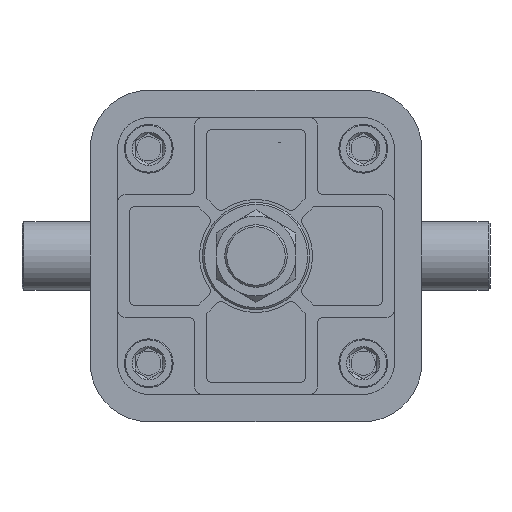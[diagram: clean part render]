
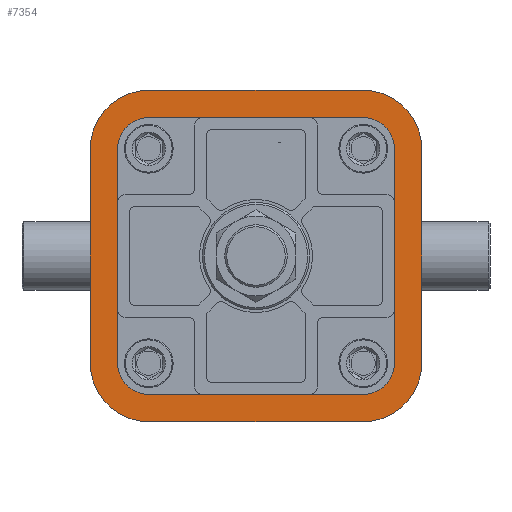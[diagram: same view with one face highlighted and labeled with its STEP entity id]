
A CAD part, front view. The second image highlights one B-rep face of the part: STEP entity #7354.
In plain terms, the highlighted planar face has unit normal (0, -1, 0).
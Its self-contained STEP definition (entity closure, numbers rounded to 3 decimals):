
#455=CIRCLE('',#7910,30.);
#457=CIRCLE('',#7914,30.);
#459=CIRCLE('',#7919,68.);
#460=CIRCLE('',#7921,6.25);
#462=CIRCLE('',#7924,6.25);
#464=CIRCLE('',#7927,6.25);
#466=CIRCLE('',#7930,6.25);
#469=CIRCLE('',#7934,30.);
#471=CIRCLE('',#7938,30.);
#1713=ORIENTED_EDGE('',*,*,#2577,.F.);
#1714=ORIENTED_EDGE('',*,*,#2575,.F.);
#1715=ORIENTED_EDGE('',*,*,#2573,.F.);
#1716=ORIENTED_EDGE('',*,*,#2571,.F.);
#1717=ORIENTED_EDGE('',*,*,#2570,.T.);
#1718=ORIENTED_EDGE('',*,*,#2568,.F.);
#1719=ORIENTED_EDGE('',*,*,#2585,.T.);
#1720=ORIENTED_EDGE('',*,*,#2586,.F.);
#1721=ORIENTED_EDGE('',*,*,#2580,.T.);
#1722=ORIENTED_EDGE('',*,*,#2563,.F.);
#1723=ORIENTED_EDGE('',*,*,#2561,.T.);
#1724=ORIENTED_EDGE('',*,*,#2557,.F.);
#1725=ORIENTED_EDGE('',*,*,#2555,.T.);
#2555=EDGE_CURVE('',#3110,#3109,#455,.F.);
#2557=EDGE_CURVE('',#3110,#3111,#3568,.T.);
#2561=EDGE_CURVE('',#3114,#3111,#457,.F.);
#2563=EDGE_CURVE('',#3114,#3115,#3572,.T.);
#2568=EDGE_CURVE('',#3118,#3109,#3577,.T.);
#2570=EDGE_CURVE('',#3120,#3120,#459,.T.);
#2571=EDGE_CURVE('',#3121,#3121,#460,.F.);
#2573=EDGE_CURVE('',#3123,#3123,#462,.F.);
#2575=EDGE_CURVE('',#3125,#3125,#464,.F.);
#2577=EDGE_CURVE('',#3127,#3127,#466,.F.);
#2580=EDGE_CURVE('',#3130,#3115,#469,.F.);
#2585=EDGE_CURVE('',#3118,#3132,#471,.F.);
#2586=EDGE_CURVE('',#3130,#3132,#3581,.T.);
#3109=VERTEX_POINT('',#10889);
#3110=VERTEX_POINT('',#10891);
#3111=VERTEX_POINT('',#10895);
#3114=VERTEX_POINT('',#10903);
#3115=VERTEX_POINT('',#10907);
#3118=VERTEX_POINT('',#10915);
#3120=VERTEX_POINT('',#10921);
#3121=VERTEX_POINT('',#10924);
#3123=VERTEX_POINT('',#10929);
#3125=VERTEX_POINT('',#10934);
#3127=VERTEX_POINT('',#10939);
#3130=VERTEX_POINT('',#10946);
#3132=VERTEX_POINT('',#10954);
#3568=LINE('',#10894,#3976);
#3572=LINE('',#10906,#3980);
#3577=LINE('',#10916,#3985);
#3581=LINE('',#10957,#3989);
#3976=VECTOR('',#9318,1000.);
#3980=VECTOR('',#9330,1000.);
#3985=VECTOR('',#9337,1000.);
#3989=VECTOR('',#9387,1000.);
#4351=EDGE_LOOP('',(#1713));
#4352=EDGE_LOOP('',(#1714));
#4353=EDGE_LOOP('',(#1715));
#4354=EDGE_LOOP('',(#1716));
#4355=EDGE_LOOP('',(#1717));
#4356=EDGE_LOOP('',(#1718,#1719,#1720,#1721,#1722,#1723,#1724,#1725));
#4775=FACE_BOUND('',#4351,.T.);
#4776=FACE_BOUND('',#4352,.T.);
#4777=FACE_BOUND('',#4353,.T.);
#4778=FACE_BOUND('',#4354,.T.);
#4779=FACE_BOUND('',#4355,.T.);
#4780=FACE_BOUND('',#4356,.T.);
#5004=PLANE('',#7939);
#7354=ADVANCED_FACE('',(#4775,#4776,#4777,#4778,#4779,#4780),#5004,.F.);
#7910=AXIS2_PLACEMENT_3D('',#10890,#9313,#9314);
#7914=AXIS2_PLACEMENT_3D('',#10902,#9325,#9326);
#7919=AXIS2_PLACEMENT_3D('',#10920,#9342,#9343);
#7921=AXIS2_PLACEMENT_3D('',#10923,#9346,#9347);
#7924=AXIS2_PLACEMENT_3D('',#10928,#9352,#9353);
#7927=AXIS2_PLACEMENT_3D('',#10933,#9358,#9359);
#7930=AXIS2_PLACEMENT_3D('',#10938,#9364,#9365);
#7934=AXIS2_PLACEMENT_3D('',#10945,#9372,#9373);
#7938=AXIS2_PLACEMENT_3D('',#10955,#9383,#9384);
#7939=AXIS2_PLACEMENT_3D('',#10956,#9385,#9386);
#9313=DIRECTION('',(0.,1.,0.));
#9314=DIRECTION('',(0.,0.,1.));
#9318=DIRECTION('',(0.,0.,-1.));
#9325=DIRECTION('',(0.,1.,0.));
#9326=DIRECTION('',(0.,0.,1.));
#9330=DIRECTION('',(-1.,0.,0.));
#9337=DIRECTION('',(1.,0.,0.));
#9342=DIRECTION('',(0.,1.,0.));
#9343=DIRECTION('',(0.,0.,1.));
#9346=DIRECTION('',(0.,1.,0.));
#9347=DIRECTION('',(0.,0.,1.));
#9352=DIRECTION('',(0.,1.,0.));
#9353=DIRECTION('',(0.,0.,1.));
#9358=DIRECTION('',(0.,1.,0.));
#9359=DIRECTION('',(0.,0.,1.));
#9364=DIRECTION('',(0.,1.,0.));
#9365=DIRECTION('',(0.,0.,1.));
#9372=DIRECTION('',(0.,1.,0.));
#9373=DIRECTION('',(0.,0.,1.));
#9383=DIRECTION('',(0.,1.,0.));
#9384=DIRECTION('',(0.,0.,1.));
#9385=DIRECTION('',(0.,1.,0.));
#9386=DIRECTION('',(0.,0.,1.));
#9387=DIRECTION('',(0.,0.,1.));
#10889=CARTESIAN_POINT('',(55.,-24.,85.));
#10890=CARTESIAN_POINT('',(55.,-24.,55.));
#10891=CARTESIAN_POINT('',(85.,-24.,55.));
#10894=CARTESIAN_POINT('',(85.,-24.,40.5));
#10895=CARTESIAN_POINT('',(85.,-24.,-55.));
#10902=CARTESIAN_POINT('',(55.,-24.,-55.));
#10903=CARTESIAN_POINT('',(55.,-24.,-85.));
#10906=CARTESIAN_POINT('',(45.,-24.,-85.));
#10907=CARTESIAN_POINT('',(-55.,-24.,-85.));
#10915=CARTESIAN_POINT('',(-55.,-24.,85.));
#10916=CARTESIAN_POINT('',(-45.,-24.,85.));
#10920=CARTESIAN_POINT('',(0.,-24.,0.));
#10921=CARTESIAN_POINT('',(0.,-24.,68.));
#10923=CARTESIAN_POINT('',(55.,-24.,55.));
#10924=CARTESIAN_POINT('',(55.,-24.,61.25));
#10928=CARTESIAN_POINT('',(-55.,-24.,55.));
#10929=CARTESIAN_POINT('',(-55.,-24.,61.25));
#10933=CARTESIAN_POINT('',(-55.,-24.,-55.));
#10934=CARTESIAN_POINT('',(-55.,-24.,-48.75));
#10938=CARTESIAN_POINT('',(55.,-24.,-55.));
#10939=CARTESIAN_POINT('',(55.,-24.,-48.75));
#10945=CARTESIAN_POINT('',(-55.,-24.,-55.));
#10946=CARTESIAN_POINT('',(-85.,-24.,-55.));
#10954=CARTESIAN_POINT('',(-85.,-24.,55.));
#10955=CARTESIAN_POINT('',(-55.,-24.,55.));
#10956=CARTESIAN_POINT('',(0.,-24.,0.));
#10957=CARTESIAN_POINT('',(-85.,-24.,-40.5));
